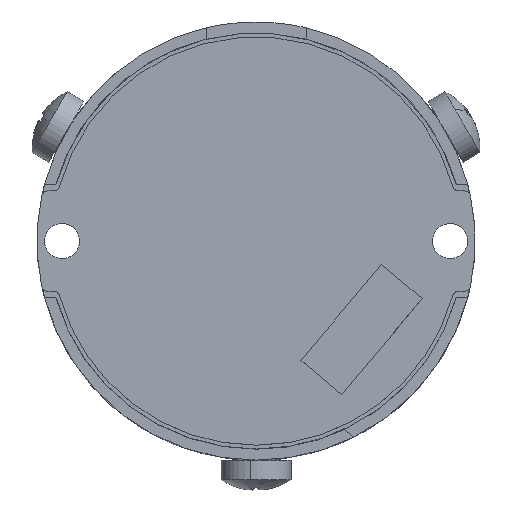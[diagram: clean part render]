
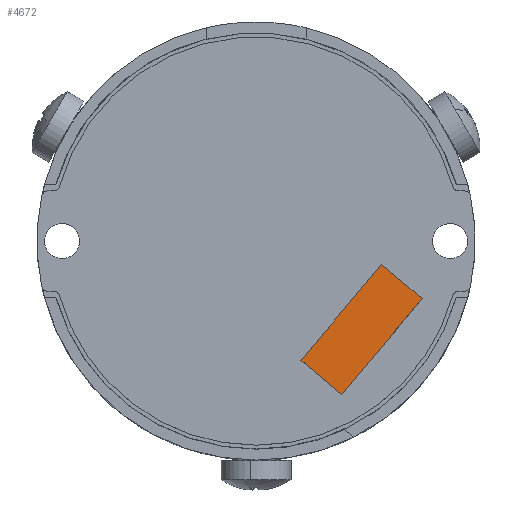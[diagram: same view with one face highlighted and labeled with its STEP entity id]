
A CAD part, top view. The second image highlights one B-rep face of the part: STEP entity #4672.
In plain terms, the highlighted planar face has unit normal (0, 0, 1) as drawn and (0, 1, 0) by its records, which use the part's own axes.
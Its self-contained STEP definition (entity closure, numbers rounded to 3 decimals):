
#368 = PLANE ( 'NONE',  #2114 ) ;
#472 = DIRECTION ( 'NONE',  ( -0.643, 0., 0.766 ) ) ;
#495 = ORIENTED_EDGE ( 'NONE', *, *, #9237, .T. ) ;
#818 = VECTOR ( 'NONE', #472, 1000. ) ;
#1048 = CARTESIAN_POINT ( 'NONE',  ( 3.012, 10.57, 44.621 ) ) ;
#1062 = ORIENTED_EDGE ( 'NONE', *, *, #1587, .T. ) ;
#1166 = CARTESIAN_POINT ( 'NONE',  ( 9.44, 10.57, 36.96 ) ) ;
#1240 = LINE ( 'NONE', #4889, #8504 ) ;
#1574 = VECTOR ( 'NONE', #9341, 1000. ) ;
#1587 = EDGE_CURVE ( 'NONE', #3416, #1991, #3653, .T. ) ;
#1600 = ORIENTED_EDGE ( 'NONE', *, *, #10314, .T. ) ;
#1991 = VERTEX_POINT ( 'NONE', #8445 ) ;
#2103 = DIRECTION ( 'NONE',  ( 0., 0., -1. ) ) ;
#2114 = AXIS2_PLACEMENT_3D ( 'NONE', #2937, #11238, #2103 ) ;
#2937 = CARTESIAN_POINT ( 'NONE',  ( -0.572, 10.57, 35.086 ) ) ;
#3416 = VERTEX_POINT ( 'NONE', #7872 ) ;
#3653 = LINE ( 'NONE', #8455, #1574 ) ;
#3977 = ORIENTED_EDGE ( 'NONE', *, *, #7491, .T. ) ;
#4672 = ADVANCED_FACE ( 'NONE', ( #9326 ), #368, .T. ) ;
#4889 = CARTESIAN_POINT ( 'NONE',  ( 9.44, 10.57, 36.96 ) ) ;
#5241 = VERTEX_POINT ( 'NONE', #1166 ) ;
#6232 = EDGE_LOOP ( 'NONE', ( #3977, #1600, #1062, #495 ) ) ;
#6646 = DIRECTION ( 'NONE',  ( 0.766, 0., 0.643 ) ) ;
#6950 = LINE ( 'NONE', #7775, #818 ) ;
#7491 = EDGE_CURVE ( 'NONE', #5241, #10039, #6950, .T. ) ;
#7694 = DIRECTION ( 'NONE',  ( -0.766, 0., -0.643 ) ) ;
#7775 = CARTESIAN_POINT ( 'NONE',  ( 9.44, 10.57, 36.96 ) ) ;
#7872 = CARTESIAN_POINT ( 'NONE',  ( 6.268, 10.57, 47.353 ) ) ;
#7899 = LINE ( 'NONE', #9196, #11761 ) ;
#8445 = CARTESIAN_POINT ( 'NONE',  ( 12.696, 10.57, 39.692 ) ) ;
#8455 = CARTESIAN_POINT ( 'NONE',  ( 12.696, 10.57, 39.692 ) ) ;
#8504 = VECTOR ( 'NONE', #7694, 1000. ) ;
#9196 = CARTESIAN_POINT ( 'NONE',  ( 3.012, 10.57, 44.621 ) ) ;
#9237 = EDGE_CURVE ( 'NONE', #1991, #5241, #1240, .T. ) ;
#9326 = FACE_OUTER_BOUND ( 'NONE', #6232, .T. ) ;
#9341 = DIRECTION ( 'NONE',  ( 0.643, 0., -0.766 ) ) ;
#10039 = VERTEX_POINT ( 'NONE', #1048 ) ;
#10314 = EDGE_CURVE ( 'NONE', #10039, #3416, #7899, .T. ) ;
#11238 = DIRECTION ( 'NONE',  ( 0., 1., 0. ) ) ;
#11761 = VECTOR ( 'NONE', #6646, 1000. ) ;
